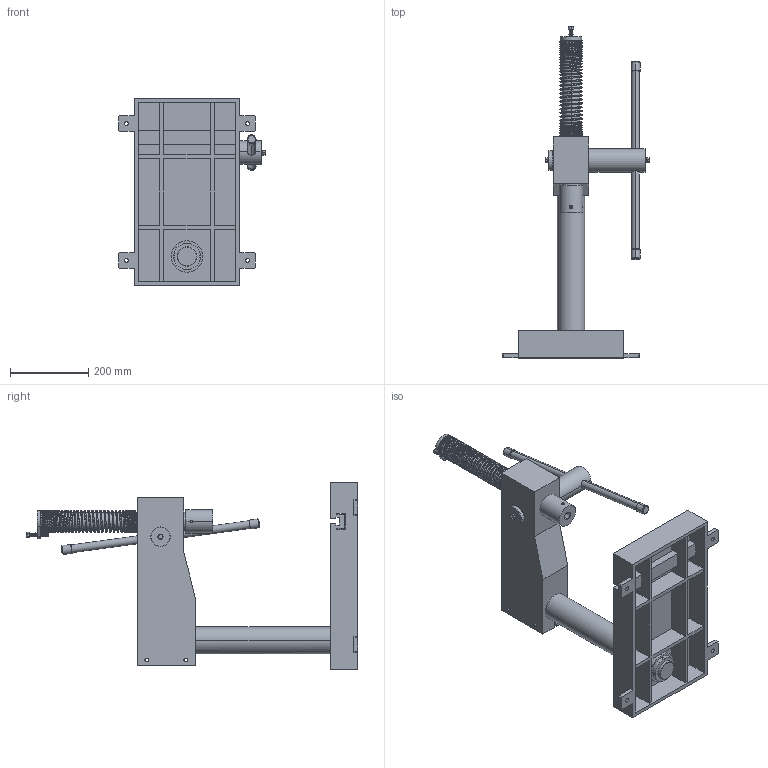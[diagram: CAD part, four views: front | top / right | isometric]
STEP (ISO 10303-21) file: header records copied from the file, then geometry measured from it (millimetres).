
FILE_DESCRIPTION((''),'2;1');
FILE_NAME('JPC-07','2026-06-29T19:07:31',('zxb27'),(''),'CREO PARAMETRIC BY PTC INC, 2022164','CREO PARAMETRIC BY PTC INC, 2022164','');
FILE_SCHEMA(('AUTOMOTIVE_DESIGN { 1 0 10303 214 1 1 1 1 }'));
Products named in the file (1): JPC-07
Bounding box: 375.5 x 848.76 x 480 mm (x, y, z)
Surface area: 1174834.6 mm2 (no closed solid volume)
Topology: 0 solids, 28 shells, 742 faces, 1985 edges, 1283 vertices
Faces by surface type: plane 354, cylinder 274, cone 41, bspline 41, extrusion 26, torus 6
Entity records: 47108 total; most frequent: CARTESIAN_POINT 24409, ORIENTED_EDGE 3896, DIRECTION 3084, EDGE_CURVE 1977, VERTEX_POINT 1283, VECTOR 1070, LINE 1044, AXIS2_PLACEMENT_3D 1007
